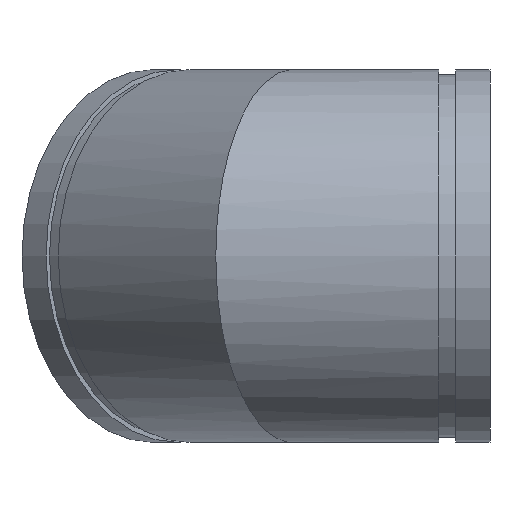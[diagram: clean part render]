
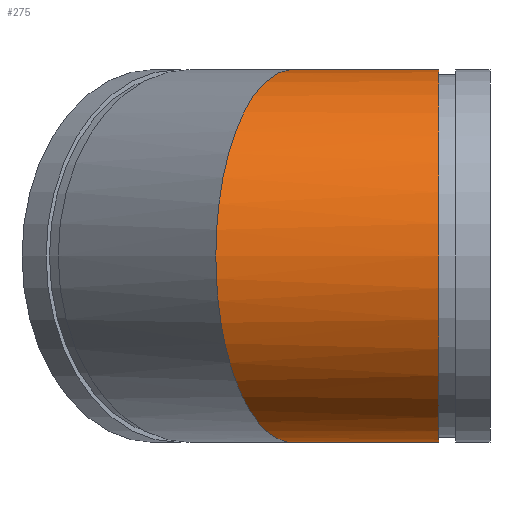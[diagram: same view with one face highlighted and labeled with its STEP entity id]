
A CAD part, left-side view. The second image highlights one B-rep face of the part: STEP entity #275.
In plain terms, the highlighted cylindrical face has radius 84.138 mm (diameter 168.275 mm), a full revolution.
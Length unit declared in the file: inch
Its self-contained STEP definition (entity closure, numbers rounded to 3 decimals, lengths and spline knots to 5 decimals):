
#48=ELLIPSE('',#329,3.58542,3.3125);
#49=ELLIPSE('',#330,3.58542,3.3125);
#50=ELLIPSE('',#331,3.58542,3.3125);
#73=FACE_OUTER_BOUND('',#91,.T.);
#91=EDGE_LOOP('',(#225,#226,#227,#228,#229,#230));
#103=LINE('',#513,#111);
#111=VECTOR('',#416,3.3125);
#117=CIRCLE('',#305,3.3125);
#133=VERTEX_POINT('',#468);
#148=VERTEX_POINT('',#512);
#149=VERTEX_POINT('',#514);
#150=VERTEX_POINT('',#516);
#156=EDGE_CURVE('',#133,#133,#117,.T.);
#176=EDGE_CURVE('',#133,#148,#103,.T.);
#177=EDGE_CURVE('',#148,#149,#48,.T.);
#178=EDGE_CURVE('',#150,#149,#49,.T.);
#179=EDGE_CURVE('',#150,#148,#50,.T.);
#225=ORIENTED_EDGE('',*,*,#156,.T.);
#226=ORIENTED_EDGE('',*,*,#176,.T.);
#227=ORIENTED_EDGE('',*,*,#177,.T.);
#228=ORIENTED_EDGE('',*,*,#178,.F.);
#229=ORIENTED_EDGE('',*,*,#179,.T.);
#230=ORIENTED_EDGE('',*,*,#176,.F.);
#247=CYLINDRICAL_SURFACE('',#328,3.3125);
#275=ADVANCED_FACE('',(#73),#247,.T.);
#305=AXIS2_PLACEMENT_3D('',#469,#363,#364);
#328=AXIS2_PLACEMENT_3D('',#511,#414,#415);
#329=AXIS2_PLACEMENT_3D('',#515,#417,#418);
#330=AXIS2_PLACEMENT_3D('',#517,#419,#420);
#331=AXIS2_PLACEMENT_3D('',#518,#421,#422);
#363=DIRECTION('center_axis',(0.,1.,0.));
#364=DIRECTION('ref_axis',(1.,0.,0.));
#414=DIRECTION('center_axis',(0.,-1.,0.));
#415=DIRECTION('ref_axis',(1.,0.,0.));
#416=DIRECTION('',(0.,1.,0.));
#417=DIRECTION('center_axis',(-0.383,-0.924,0.));
#418=DIRECTION('ref_axis',(0.924,-0.383,0.));
#419=DIRECTION('center_axis',(0.383,0.924,0.));
#420=DIRECTION('ref_axis',(0.924,-0.383,0.));
#421=DIRECTION('center_axis',(-0.383,-0.924,0.));
#422=DIRECTION('ref_axis',(0.924,-0.383,0.));
#468=CARTESIAN_POINT('',(-3.3125,-2.59,0.));
#469=CARTESIAN_POINT('Origin',(0.,-2.59,0.));
#511=CARTESIAN_POINT('Origin',(0.,0.,0.));
#512=CARTESIAN_POINT('',(-3.3125,1.37208,0.));
#513=CARTESIAN_POINT('',(-3.3125,0.,0.));
#514=CARTESIAN_POINT('',(0.,0.,-3.3125));
#515=CARTESIAN_POINT('Origin',(0.,0.,
0.));
#516=CARTESIAN_POINT('',(0.,0.,3.3125));
#517=CARTESIAN_POINT('Origin',(0.,0.,0.));
#518=CARTESIAN_POINT('Origin',(0.,0.,
0.));
